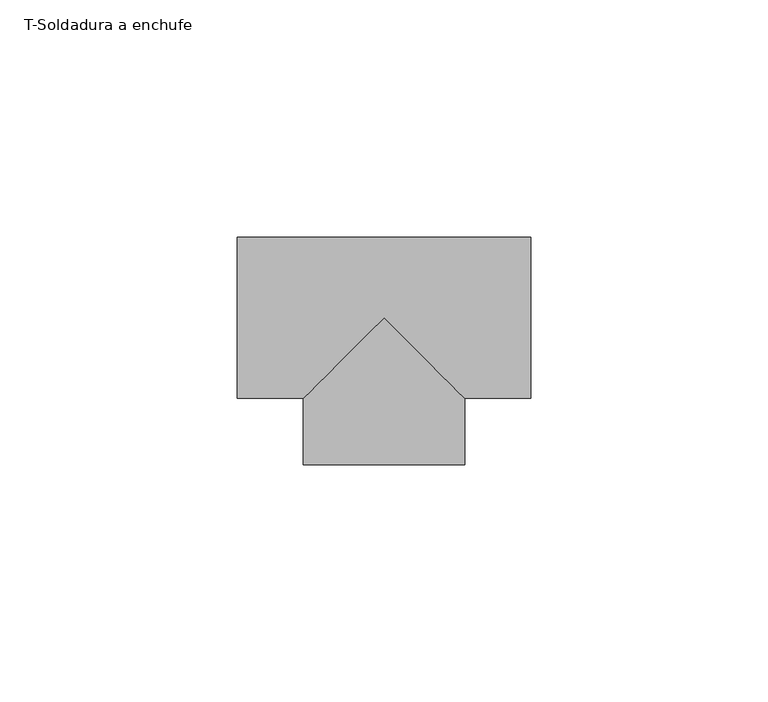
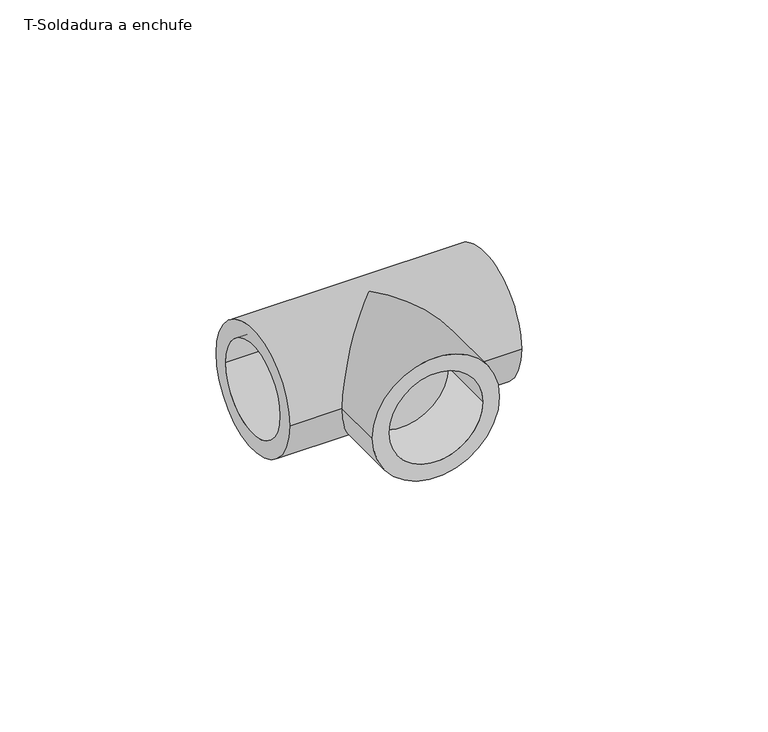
"""IFC4 building model written with IfcOpenShell, lengths in millimetres: pipe fitting geometry, T-Soldadura a enchufe : Estándar."""

from ifc_helpers import new_model, si_unit, frame, origin, place, context, project, spatial, polyline, circle_curve, ellipse_curve, source, transform, mapped, element, save
from ifc_brep_helpers import plane_surface, cylinder_surface, revolved_surface, advanced_brep


def t_soldadura_a_enchufe_a08a0222(model_context):
    return source(origin(), model_context, "Body", "AdvancedBrep", [
        advanced_brep(
        [(-31.0, -17.0, 0.0), (-31.0, 17.0, 0.0), (-31.0, -12.5, 0.0), (-31.0, 12.5, 0.0), (31.0, -17.0, 0.0), (31.0, 17.0, 0.0), (31.0, -12.5, 0.0), (31.0, 12.5, 0.0), (-17.0, -17.0, 0.0), (0.0, 0.0, 17.0), (17.0, -17.0, 0.0), (0.0, 0.0, -17.0), (-17.0, -31.0, 0.0), (17.0, -31.0, 0.0), (12.5, -31.0, 0.0), (-12.5, -31.0, 0.0), (-15.0, -12.5, 0.0), (-15.0, 12.5, 0.0), (15.0, -12.5, 0.0), (15.0, 12.5, 0.0), (-12.5, -15.0, 0.0), (12.5, -15.0, 0.0)],
        [
            (0, 1, circle_curve(frame((-31.0, 0.0, 0.0), z_axis=(-1.0, 0.0, 0.0), x_axis=(0.0, 1.0, 0.0)), 17.0)),
            (1, 0, circle_curve(frame((-31.0, 0.0, 0.0), z_axis=(-1.0, 0.0, 0.0), x_axis=(0.0, 1.0, 0.0)), 17.0)),
            (2, 3, circle_curve(frame((-31.0, 0.0, 0.0), z_axis=(1.0, 0.0, 0.0), x_axis=(0.0, 1.0, 0.0)), 12.5)),
            (3, 2, circle_curve(frame((-31.0, 0.0, 0.0), z_axis=(1.0, 0.0, 0.0), x_axis=(0.0, 1.0, 0.0)), 12.5)),
            (4, 5, circle_curve(frame((31.0, 0.0, 0.0), z_axis=(1.0, 0.0, 0.0), x_axis=(0.0, 1.0, 0.0)), 17.0)),
            (5, 4, circle_curve(frame((31.0, 0.0, 0.0), z_axis=(1.0, 0.0, 0.0), x_axis=(0.0, 1.0, 0.0)), 17.0)),
            (6, 7, circle_curve(frame((31.0, 0.0, 0.0), z_axis=(-1.0, 0.0, 0.0), x_axis=(0.0, 1.0, 0.0)), 12.5)),
            (7, 6, circle_curve(frame((31.0, 0.0, 0.0), z_axis=(-1.0, 0.0, 0.0), x_axis=(0.0, 1.0, 0.0)), 12.5)),
            (0, 8),
            (8, 9, ellipse_curve(frame((0.0, 0.0, 0.0), z_axis=(-0.707106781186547, 0.7071067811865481, 0.0), x_axis=(-0.707106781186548, -0.707106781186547, 0.0)), 24.0416306, 17.0)),
            (9, 10, ellipse_curve(frame((0.0, 0.0, 0.0), z_axis=(0.707106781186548, 0.7071067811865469, 0.0), x_axis=(-0.707106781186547, 0.707106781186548, 0.0)), 24.0416306, 17.0)),
            (10, 4),
            (5, 1),
            (10, 11, ellipse_curve(frame((0.0, 0.0, 0.0), z_axis=(0.707106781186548, 0.7071067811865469, 0.0), x_axis=(-0.707106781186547, 0.707106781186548, 0.0)), 24.0416306, 17.0)),
            (11, 8, ellipse_curve(frame((0.0, 0.0, 0.0), z_axis=(-0.707106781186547, 0.7071067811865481, 0.0), x_axis=(-0.707106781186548, -0.707106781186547, 0.0)), 24.0416306, 17.0)),
            (12, 13, circle_curve(frame((0.0, -31.0, 0.0), z_axis=(0.0, -1.0, 0.0), x_axis=(1.0, 0.0, 0.0)), 17.0)),
            (13, 12, circle_curve(frame((0.0, -31.0, 0.0), z_axis=(0.0, -1.0, 0.0), x_axis=(1.0, 0.0, 0.0)), 17.0)),
            (14, 15, circle_curve(frame((0.0, -31.0, 0.0), z_axis=(0.0, 1.0, 0.0), x_axis=(1.0, 0.0, 0.0)), 12.5)),
            (15, 14, circle_curve(frame((0.0, -31.0, 0.0), z_axis=(0.0, 1.0, 0.0), x_axis=(1.0, 0.0, 0.0)), 12.5)),
            (13, 10),
            (8, 12),
            (16, 17, circle_curve(frame((-15.0, 0.0, 0.0), z_axis=(-1.0, 0.0, 0.0), x_axis=(0.0, 1.0, 0.0)), 12.5)),
            (17, 16, circle_curve(frame((-15.0, 0.0, 0.0), z_axis=(-1.0, 0.0, 0.0), x_axis=(0.0, 1.0, 0.0)), 12.5)),
            (17, 3),
            (2, 16),
            (18, 19, circle_curve(frame((15.0, 0.0, 0.0), z_axis=(1.0, 0.0, 0.0), x_axis=(0.0, 1.0, 0.0)), 12.5)),
            (19, 18, circle_curve(frame((15.0, 0.0, 0.0), z_axis=(1.0, 0.0, 0.0), x_axis=(0.0, 1.0, 0.0)), 12.5)),
            (19, 7),
            (6, 18),
            (20, 21, circle_curve(frame((0.0, -15.0, 0.0), z_axis=(0.0, -1.0, 0.0), x_axis=(1.0, 0.0, 0.0)), 12.5)),
            (21, 20, circle_curve(frame((0.0, -15.0, 0.0), z_axis=(0.0, -1.0, 0.0), x_axis=(1.0, 0.0, 0.0)), 12.5)),
            (20, 15),
            (14, 21),
        ],
        [
            plane_surface(frame((-31.0, 0.0, 0.0), z_axis=(-1.0, 0.0, 0.0), x_axis=(0.0, 0.0, 1.0))),
            plane_surface(frame((31.0, 0.0, 0.0), z_axis=(1.0, 0.0, 0.0), x_axis=(0.0, 0.0, 1.0))),
            cylinder_surface(frame((-31.0, 0.0, 0.0), z_axis=(-1.0, 0.0, 0.0), x_axis=(0.0, 1.0, 0.0)), 17.0),
            plane_surface(frame((0.0, -31.0, 0.0), z_axis=(0.0, -1.0, 0.0), x_axis=(0.0, 0.0, 1.0))),
            cylinder_surface(frame((0.0, 0.0, 0.0), z_axis=(0.0, 1.0, 0.0), x_axis=(1.0, 0.0, 0.0)), 17.0),
            plane_surface(frame((-15.0, 12.5, 0.0), z_axis=(-1.0, 0.0, 0.0), x_axis=(0.0, 0.0, 1.0))),
            revolved_surface(polyline([(-15.0, 12.5, 0.0), (-31.0, 12.5, 0.0)]), (-31.0, 0.0, 0.0), (1.0, 0.0, 0.0)),
            plane_surface(frame((15.0, 12.5, 0.0), z_axis=(1.0, 0.0, 0.0), x_axis=(0.0, 0.0, -1.0))),
            revolved_surface(polyline([(15.0, 12.5, 0.0), (31.0, 12.5, 0.0)]), (31.0, 0.0, 0.0), (-1.0, 0.0, 0.0)),
            plane_surface(frame((12.5, -15.0, 0.0), z_axis=(0.0, -1.0, 0.0), x_axis=(0.0, 0.0, -1.0))),
            revolved_surface(polyline([(12.5, -31.0, 0.0), (12.5, -15.0, 0.0)]), (0.0, -15.0, 0.0), (0.0, -1.0, 0.0)),
        ],
        [
            (0, [[1, 2], [3, 4]]),
            (1, [[5, 6], [7, 8]]),
            (2, [[-1, 9, 10, 11, 12, -6, 13]]),
            (2, [[-2, -13, -5, -12, 14, 15, -9]]),
            (3, [[16, 17], [18, 19]]),
            (4, [[-17, 20, -11, -10, 21]]),
            (4, [[-16, -21, -15, -14, -20]]),
            (5, [[22, 23]]),
            (6, [[-23, 24, -3, 25]]),
            (6, [[-22, -25, -4, -24]]),
            (7, [[26, 27]]),
            (8, [[-27, 28, -7, 29]]),
            (8, [[-26, -29, -8, -28]]),
            (9, [[30, 31]]),
            (10, [[-30, 32, -18, 33]]),
            (10, [[-31, -33, -19, -32]]),
        ],
    ),
    ])


if __name__ == "__main__":
    model = new_model("IFC4")
    model_context = context("Model", 3, world=origin())
    ifc_project = project(units=[si_unit("LENGTHUNIT", "METRE", prefix="MILLI")], contexts=[model_context])
    site = spatial("IfcSite", under=ifc_project)
    building = spatial("IfcBuilding", under=site)
    placement = place(None, origin())
    t_soldadura_a_enchufe_shape = t_soldadura_a_enchufe_a08a0222(model_context)
    element("IfcPipeFitting", 1, ObjectType="T-Soldadura a enchufe : Estándar", at=placement, inside=building, context=model_context, shape_type="MappedRepresentation", body=[
        mapped(t_soldadura_a_enchufe_shape, transform((0.0, 0.0, 0.0), x_axis=(1.0, 0.0, 0.0), y_axis=(0.0, 1.0, 0.0), z_axis=(0.0, 0.0, 1.0))),
    ])
    save(model, "model.ifc")
